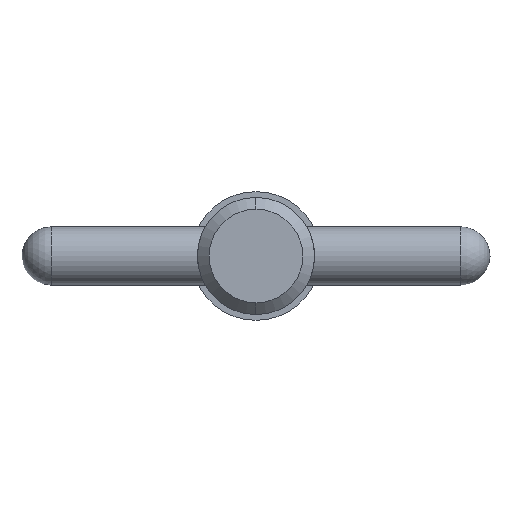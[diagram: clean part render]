
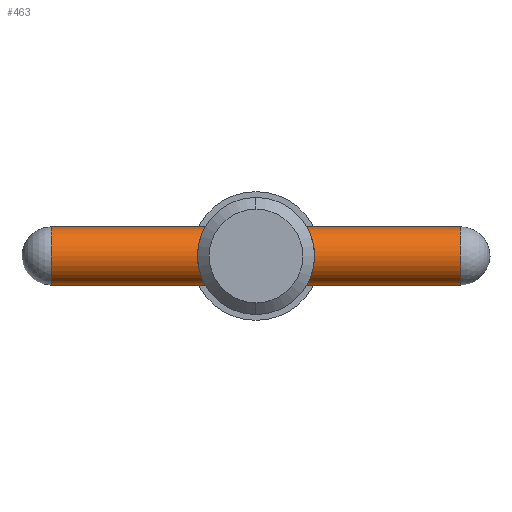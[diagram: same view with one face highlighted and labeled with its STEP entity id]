
A CAD part, left-side view. The second image highlights one B-rep face of the part: STEP entity #463.
In plain terms, the highlighted cylindrical face has radius 1.585 mm (diameter 3.17 mm), a partial arc.
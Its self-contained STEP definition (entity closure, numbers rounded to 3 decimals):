
#19 = DIRECTION ( 'NONE',  ( 0., -1., 0. ) ) ;
#25 = EDGE_LOOP ( 'NONE', ( #334, #902, #826, #798 ) ) ;
#48 = VERTEX_POINT ( 'NONE', #64 ) ;
#64 = CARTESIAN_POINT ( 'NONE',  ( 0., 11.115, 1.585 ) ) ;
#85 = DIRECTION ( 'NONE',  ( 0., -1., 0. ) ) ;
#90 = CARTESIAN_POINT ( 'NONE',  ( 0., -11.115, 1.585 ) ) ;
#107 = VERTEX_POINT ( 'NONE', #843 ) ;
#187 = DIRECTION ( 'NONE',  ( 0., -1., 0. ) ) ;
#195 = EDGE_CURVE ( 'NONE', #48, #867, #871, .T. ) ;
#274 = CYLINDRICAL_SURFACE ( 'NONE', #991, 1.585 ) ;
#285 = DIRECTION ( 'NONE',  ( 0., 0., -1. ) ) ;
#309 = DIRECTION ( 'NONE',  ( 0., -1., 0. ) ) ;
#312 = LINE ( 'NONE', #776, #584 ) ;
#334 = ORIENTED_EDGE ( 'NONE', *, *, #195, .F. ) ;
#392 = CARTESIAN_POINT ( 'NONE',  ( 0., -11.115, -1.585 ) ) ;
#443 = DIRECTION ( 'NONE',  ( 0., 0., -1. ) ) ;
#463 = ADVANCED_FACE ( 'NONE', ( #590 ), #274, .T. ) ;
#499 = EDGE_CURVE ( 'NONE', #785, #867, #502, .T. ) ;
#502 = CIRCLE ( 'NONE', #909, 1.585 ) ;
#540 = DIRECTION ( 'NONE',  ( 0., 1., 0. ) ) ;
#555 = AXIS2_PLACEMENT_3D ( 'NONE', #691, #309, #932 ) ;
#584 = VECTOR ( 'NONE', #85, 1000. ) ;
#590 = FACE_OUTER_BOUND ( 'NONE', #25, .T. ) ;
#599 = VECTOR ( 'NONE', #19, 1000. ) ;
#646 = CARTESIAN_POINT ( 'NONE',  ( 0., 12.7, 1.585 ) ) ;
#691 = CARTESIAN_POINT ( 'NONE',  ( 0., 11.115, 0. ) ) ;
#692 = CARTESIAN_POINT ( 'NONE',  ( 0., -11.115, 0. ) ) ;
#738 = CIRCLE ( 'NONE', #555, 1.585 ) ;
#747 = EDGE_CURVE ( 'NONE', #107, #785, #312, .T. ) ;
#776 = CARTESIAN_POINT ( 'NONE',  ( 0., 12.7, -1.585 ) ) ;
#785 = VERTEX_POINT ( 'NONE', #392 ) ;
#798 = ORIENTED_EDGE ( 'NONE', *, *, #499, .T. ) ;
#826 = ORIENTED_EDGE ( 'NONE', *, *, #747, .T. ) ;
#843 = CARTESIAN_POINT ( 'NONE',  ( 0., 11.115, -1.585 ) ) ;
#867 = VERTEX_POINT ( 'NONE', #90 ) ;
#870 = EDGE_CURVE ( 'NONE', #48, #107, #738, .T. ) ;
#871 = LINE ( 'NONE', #646, #599 ) ;
#901 = CARTESIAN_POINT ( 'NONE',  ( 0., 12.7, 0. ) ) ;
#902 = ORIENTED_EDGE ( 'NONE', *, *, #870, .T. ) ;
#909 = AXIS2_PLACEMENT_3D ( 'NONE', #692, #540, #443 ) ;
#932 = DIRECTION ( 'NONE',  ( 0., 0., -1. ) ) ;
#991 = AXIS2_PLACEMENT_3D ( 'NONE', #901, #187, #285 ) ;
